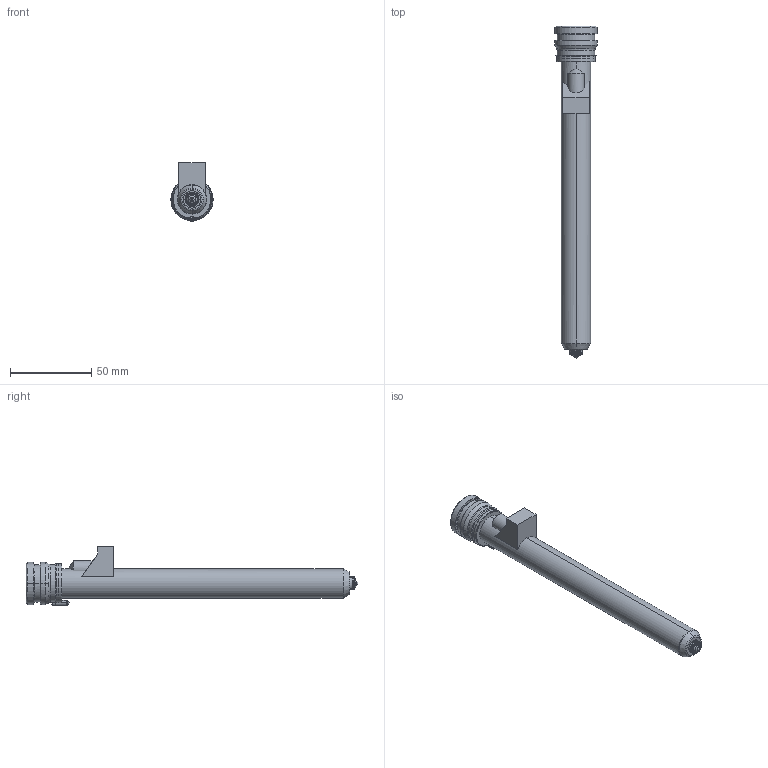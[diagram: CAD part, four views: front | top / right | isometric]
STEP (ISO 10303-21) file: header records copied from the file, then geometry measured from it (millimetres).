
FILE_DESCRIPTION((''),'2;1');
FILE_NAME('TH18186-M-1-PK-JG','2023-12-14T',('umhib'),('Thermoplay S.p.A.'),'PRO/ENGINEER BY PARAMETRIC TECHNOLOGY CORPORATION, 2017170','PRO/ENGINEER BY PARAMETRIC TECHNOLOGY CORPORATION, 2017170','');
FILE_SCHEMA(('CONFIG_CONTROL_DESIGN'));
Length unit declared in the file: millimetre
Products named in the file (1): TH18186-M-1-PK-JG
Bounding box: 26 x 204 x 36.1 mm (x, y, z)
Volume: 40499.9 mm3; surface area: 30386.1 mm2
Topology: 1 solids, 2 shells, 391 faces, 999 edges, 613 vertices
Faces by surface type: cylinder 149, plane 87, cone 62, torus 58, bspline 22, sphere 11, extrusion 2
Entity records: 16788 total; most frequent: CARTESIAN_POINT 5160, DIRECTION 2000, ORIENTED_EDGE 1972, EDGE_CURVE 988, AXIS2_PLACEMENT_3D 806, VERTEX_POINT 613, CIRCLE 438, EDGE_LOOP 414
